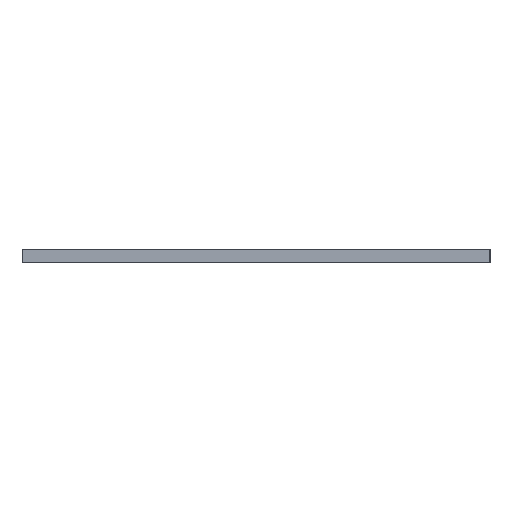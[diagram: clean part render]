
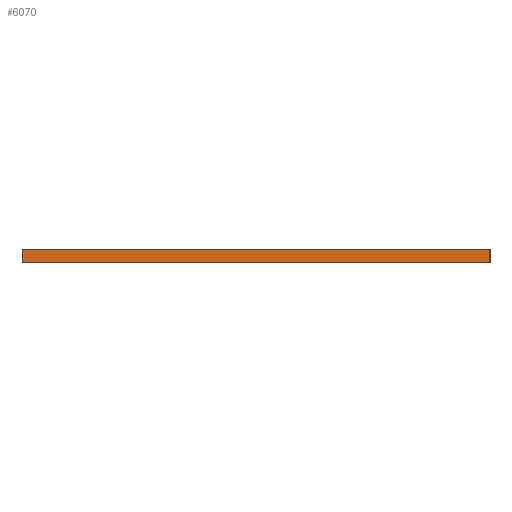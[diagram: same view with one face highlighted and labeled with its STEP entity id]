
A CAD part, left-side view. The second image highlights one B-rep face of the part: STEP entity #6070.
In plain terms, the highlighted planar face has unit normal (-1, 0, 0).
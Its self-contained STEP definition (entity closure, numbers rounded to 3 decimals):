
#768=PLANE('',#6625);
#1166=FACE_OUTER_BOUND('',#1429,.T.);
#1429=EDGE_LOOP('',(#5302,#5303,#5304,#5305));
#2064=LINE('',#10104,#2565);
#2072=LINE('',#10119,#2573);
#2073=LINE('',#10121,#2574);
#2074=LINE('',#10122,#2575);
#2565=VECTOR('',#8305,10.);
#2573=VECTOR('',#8317,10.);
#2574=VECTOR('',#8320,10.);
#2575=VECTOR('',#8321,10.);
#3477=VERTEX_POINT('',#10100);
#3479=VERTEX_POINT('',#10103);
#3483=VERTEX_POINT('',#10115);
#3484=VERTEX_POINT('',#10117);
#4247=EDGE_CURVE('',#3477,#3479,#2064,.T.);
#4255=EDGE_CURVE('',#3483,#3484,#2072,.T.);
#4256=EDGE_CURVE('',#3483,#3477,#2073,.T.);
#4257=EDGE_CURVE('',#3479,#3484,#2074,.T.);
#5302=ORIENTED_EDGE('',*,*,#4256,.F.);
#5303=ORIENTED_EDGE('',*,*,#4255,.T.);
#5304=ORIENTED_EDGE('',*,*,#4257,.F.);
#5305=ORIENTED_EDGE('',*,*,#4247,.F.);
#6070=ADVANCED_FACE('',(#1166),#768,.T.);
#6625=AXIS2_PLACEMENT_3D('',#10120,#8318,#8319);
#8305=DIRECTION('',(0.,0.,-1.));
#8317=DIRECTION('',(0.,0.,-1.));
#8318=DIRECTION('center_axis',(-1.,0.,0.));
#8319=DIRECTION('ref_axis',(0.,1.,0.));
#8320=DIRECTION('',(0.,-1.,0.));
#8321=DIRECTION('',(0.,1.,0.));
#10100=CARTESIAN_POINT('',(-66.1,-43.5,0.));
#10103=CARTESIAN_POINT('',(-66.1,-43.5,-2.5));
#10104=CARTESIAN_POINT('',(-66.1,-43.5,0.));
#10115=CARTESIAN_POINT('',(-66.1,43.5,0.));
#10117=CARTESIAN_POINT('',(-66.1,43.5,-2.5));
#10119=CARTESIAN_POINT('',(-66.1,43.5,0.));
#10120=CARTESIAN_POINT('Origin',(-66.1,-43.5,0.));
#10121=CARTESIAN_POINT('',(-66.1,43.5,0.));
#10122=CARTESIAN_POINT('',(-66.1,43.5,-2.5));
